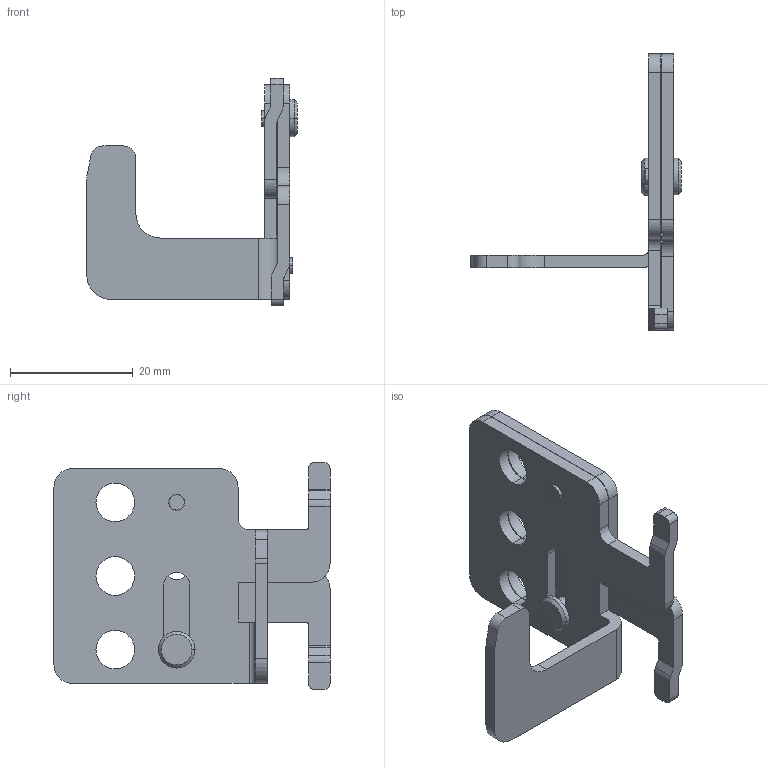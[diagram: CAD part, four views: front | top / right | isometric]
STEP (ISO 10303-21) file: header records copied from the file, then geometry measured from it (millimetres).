
FILE_DESCRIPTION((''),'2;1');
FILE_NAME('U6_PLD_ASSY_ASM','2018-06-04T',('HHI'),(''),'PRO/ENGINEER BY PARAMETRIC TECHNOLOGY CORPORATION, 2012453','PRO/ENGINEER BY PARAMETRIC TECHNOLOGY CORPORATION, 2012453','');
FILE_SCHEMA(('CONFIG_CONTROL_DESIGN'));
Length unit declared in the file: millimetre
Products named in the file (5): U6_PLD_ASSY_SKEL; U6_PLD_HANDLE_LOCK_PLATE; U8_HANDLE_LOCK_RIVETING_PIN; U6_PLD_HANDLE_HOLD_PLATE; U6_PLD_ASSY_ASM
Assembly tree (5 placements, depth 2):
  U6_PLD_ASSY_ASM
    U6_PLD_ASSY_SKEL
    U6_PLD_HANDLE_LOCK_PLATE
    U8_HANDLE_LOCK_RIVETING_PIN  x2
    U6_PLD_HANDLE_HOLD_PLATE
Bounding box: 34.3 x 45 x 37 mm (x, y, z)
Volume: 5235 mm3; surface area: 6620.1 mm2
Topology: 4 solids, 4 shells, 120 faces, 320 edges, 212 vertices
Faces by surface type: cylinder 65, plane 51, cone 4
Entity records: 3665 total; most frequent: DIRECTION 654, CARTESIAN_POINT 614, ORIENTED_EDGE 596, EDGE_CURVE 298, AXIS2_PLACEMENT_3D 238, VERTEX_POINT 198, VECTOR 178, LINE 178
